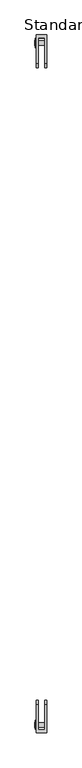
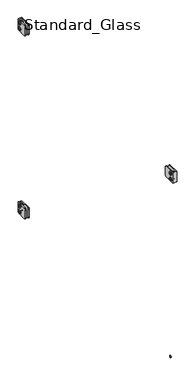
"""IFC4 building model written with IfcOpenShell, lengths in millimetres: railing geometry, Baluster-Excess-Fill-Straight-Panel-VIVA : Standard_Glass."""

from ifc_helpers import new_model, si_unit, point, frame, origin, place, context, project, spatial, polyline, circle_curve, ellipse_curve, trimmed, outline, extrude, source, transform, mapped, element, save
from ifc_brep_helpers import plane_surface, cylinder_surface, revolved_surface, advanced_brep


def standard_glass_ddde132f(model_context):
    return source(origin(), model_context, "Body", "SolidModel", [
        extrude(outline(polyline([(17.3185433, 917.178125), (15.2715791, 913.6326791), (11.1776508, 913.6326791), (9.1306867, 917.178125), (11.1776508, 920.7235709), (15.2715791, 920.7235709), (17.3185433, 917.178125)])), frame((21.7024185, 0.0, 0.0), z_axis=(1.0, 0.0, 0.0), x_axis=(0.0, 1.0, 0.0)), (0.0, 0.0, 1.0), 1.4969696),
        advanced_brep(
        [(36.7665, 16.7700609, 917.178125), (36.7665, 9.6791691, 917.178125), (24.0665, 9.6791691, 917.178125), (24.0665, 16.7700609, 917.178125), (24.0665, 5.8168259, 917.178125), (24.0665, 20.6324041, 917.178125), (23.199388, 14.8806904, 917.178125), (23.199388, 11.5685396, 917.178125), (36.7665, 11.5685396, 917.178125), (36.7665, 14.8806904, 917.178125), (23.2316551, 20.6324041, 917.178125), (23.2316551, 5.8168259, 917.178125), (21.9503831, 7.0980979, 917.178125), (21.9503831, 19.351132, 917.178125), (21.9503831, 8.9260194, 917.178125), (21.9503831, 17.5232105, 917.178125), (23.199388, 8.9260194, 917.178125), (23.199388, 17.5232105, 917.178125)],
        [
            (0, 1, circle_curve(frame((36.7665, 13.224615, 917.178125), z_axis=(-1.0, 0.0, 0.0), x_axis=(0.0, -1.0, 0.0)), 3.5454459)),
            (1, 2),
            (2, 3, circle_curve(frame((24.0665, 13.224615, 917.178125), z_axis=(1.0, 0.0, 0.0), x_axis=(0.0, -1.0, 0.0)), 3.5454459)),
            (3, 0),
            (1, 0, circle_curve(frame((36.7665, 13.224615, 917.178125), z_axis=(-1.0, 0.0, 0.0), x_axis=(0.0, -1.0, 0.0)), 3.5454459)),
            (3, 2, circle_curve(frame((24.0665, 13.224615, 917.178125), z_axis=(1.0, 0.0, 0.0), x_axis=(0.0, -1.0, 0.0)), 3.5454459)),
            (2, 4),
            (4, 5, circle_curve(frame((24.0665, 13.224615, 917.178125), z_axis=(1.0, 0.0, 0.0), x_axis=(0.0, -1.0, 0.0)), 7.4077891)),
            (5, 3),
            (5, 4, circle_curve(frame((24.0665, 13.224615, 917.178125), z_axis=(1.0, 0.0, 0.0), x_axis=(0.0, -1.0, 0.0)), 7.4077891)),
            (6, 7, circle_curve(frame((23.199388, 13.224615, 917.178125), z_axis=(-1.0, 0.0, 0.0), x_axis=(0.0, -1.0, 0.0)), 1.6560754)),
            (7, 8),
            (8, 9, circle_curve(frame((36.7665, 13.224615, 917.178125), z_axis=(1.0, 0.0, 0.0), x_axis=(0.0, -1.0, 0.0)), 1.6560754)),
            (9, 6),
            (7, 6, circle_curve(frame((23.199388, 13.224615, 917.178125), z_axis=(-1.0, 0.0, 0.0), x_axis=(0.0, -1.0, 0.0)), 1.6560754)),
            (9, 8, circle_curve(frame((36.7665, 13.224615, 917.178125), z_axis=(1.0, 0.0, 0.0), x_axis=(0.0, -1.0, 0.0)), 1.6560754)),
            (10, 11, circle_curve(frame((23.2316551, 13.224615, 917.178125), z_axis=(-1.0, 0.0, 0.0), x_axis=(0.0, -1.0, 0.0)), 7.4077891)),
            (11, 12, circle_curve(frame((23.2316551, 7.0980979, 917.178125), z_axis=(0.0, 0.0, -1.0), x_axis=(0.0, -1.0, 0.0)), 1.281272)),
            (12, 13, circle_curve(frame((21.9503831, 13.224615, 917.178125), z_axis=(1.0, 0.0, 0.0), x_axis=(0.0, -1.0, 0.0)), 6.1265171)),
            (13, 10, circle_curve(frame((23.2316551, 19.351132, 917.178125), z_axis=(0.0, 0.0, -1.0), x_axis=(0.0, 1.0, 0.0)), 1.281272)),
            (11, 10, circle_curve(frame((23.2316551, 13.224615, 917.178125), z_axis=(-1.0, 0.0, 0.0), x_axis=(0.0, -1.0, 0.0)), 7.4077891)),
            (13, 12, circle_curve(frame((21.9503831, 13.224615, 917.178125), z_axis=(1.0, 0.0, 0.0), x_axis=(0.0, -1.0, 0.0)), 6.1265171)),
            (12, 14),
            (14, 15, circle_curve(frame((21.9503831, 13.224615, 917.178125), z_axis=(1.0, 0.0, 0.0), x_axis=(0.0, -1.0, 0.0)), 4.2985955)),
            (15, 13),
            (15, 14, circle_curve(frame((21.9503831, 13.224615, 917.178125), z_axis=(1.0, 0.0, 0.0), x_axis=(0.0, -1.0, 0.0)), 4.2985955)),
            (4, 11),
            (10, 5),
            (8, 1),
            (0, 9),
            (14, 16),
            (16, 17, circle_curve(frame((23.199388, 13.224615, 917.178125), z_axis=(1.0, 0.0, 0.0), x_axis=(0.0, -1.0, 0.0)), 4.2985955)),
            (17, 15),
            (17, 16, circle_curve(frame((23.199388, 13.224615, 917.178125), z_axis=(1.0, 0.0, 0.0), x_axis=(0.0, -1.0, 0.0)), 4.2985955)),
            (16, 7),
            (6, 17),
        ],
        [
            cylinder_surface(frame((27.5632331, 13.224615, 917.178125), z_axis=(1.0, 0.0, 0.0), x_axis=(0.0, -1.0, 0.0)), 3.5454459),
            plane_surface(frame((24.0665, 13.224615, 917.178125), z_axis=(1.0, 0.0, 0.0), x_axis=(0.0, -1.0, 0.0))),
            revolved_surface(polyline([(36.7665, 11.5685396, 917.178125), (23.199388, 11.5685396, 917.178125)]), (27.5632331, 13.224615, 917.178125), (1.0, 0.0, 0.0)),
            revolved_surface(trimmed(ellipse_curve(frame((23.2316551, 7.0980979, 917.178125), z_axis=(0.0, 0.0, 1.0), x_axis=(0.0, -1.0, 0.0)), 1.281272, 1.281272), [point((21.9503831, 7.0980979, 917.178125))], [point((23.2316551, 5.8168259, 917.178125))], True, "CARTESIAN"), (27.5632331, 13.224615, 917.178125), (1.0, 0.0, 0.0)),
            plane_surface(frame((21.9503831, 13.224615, 917.178125), z_axis=(-1.0, 0.0, 0.0), x_axis=(0.0, -1.0, 0.0))),
            cylinder_surface(frame((27.5632331, 13.224615, 917.178125), z_axis=(1.0, 0.0, 0.0), x_axis=(0.0, -1.0, 0.0)), 7.4077891),
            plane_surface(frame((36.7665, 13.224615, 917.178125), z_axis=(1.0, 0.0, 0.0), x_axis=(0.0, -1.0, 0.0))),
            revolved_surface(polyline([(23.199388, 8.926019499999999, 917.178125), (21.9503831, 8.926019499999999, 917.178125)]), (27.5632331, 13.224615, 917.178125), (1.0, 0.0, 0.0)),
            plane_surface(frame((23.199388, 13.224615, 917.178125), z_axis=(-1.0, 0.0, 0.0), x_axis=(0.0, -1.0, 0.0))),
        ],
        [
            (0, [[1, 2, 3, 4]]),
            (0, [[5, -4, 6, -2]]),
            (1, [[-3, 7, 8, 9]]),
            (1, [[-6, -9, 10, -7]]),
            (2, [[11, 12, 13, 14]]),
            (2, [[15, -14, 16, -12]]),
            (3, [[17, 18, 19, 20]]),
            (3, [[21, -20, 22, -18]]),
            (4, [[-19, 23, 24, 25]]),
            (4, [[-22, -25, 26, -23]]),
            (5, [[-8, 27, -17, 28]]),
            (5, [[-10, -28, -21, -27]]),
            (6, [[-13, 29, -1, 30]]),
            (6, [[-16, -30, -5, -29]]),
            (7, [[-24, 31, 32, 33]]),
            (7, [[-26, -33, 34, -31]]),
            (8, [[-32, 35, -11, 36]]),
            (8, [[-34, -36, -15, -35]]),
        ],
    ),
        advanced_brep(
        [(36.7665, 16.7700609, 892.571875), (36.7665, 9.6791691, 892.571875), (24.0665, 9.6791691, 892.571875), (24.0665, 16.7700609, 892.571875), (24.0665, 5.8168259, 892.571875), (24.0665, 20.6324041, 892.571875), (23.199388, 14.8806904, 892.571875), (23.199388, 11.5685396, 892.571875), (36.7665, 11.5685396, 892.571875), (36.7665, 14.8806904, 892.571875), (23.2316551, 20.6324041, 892.571875), (23.2316551, 5.8168259, 892.571875), (21.9503831, 7.0980979, 892.571875), (21.9503831, 19.351132, 892.571875), (21.9503831, 8.9260194, 892.571875), (21.9503831, 17.5232105, 892.571875), (23.199388, 8.9260194, 892.571875), (23.199388, 17.5232105, 892.571875)],
        [
            (0, 1, circle_curve(frame((36.7665, 13.224615, 892.571875), z_axis=(-1.0, 0.0, 0.0), x_axis=(0.0, -1.0, 0.0)), 3.5454459)),
            (1, 2),
            (2, 3, circle_curve(frame((24.0665, 13.224615, 892.571875), z_axis=(1.0, 0.0, 0.0), x_axis=(0.0, -1.0, 0.0)), 3.5454459)),
            (3, 0),
            (1, 0, circle_curve(frame((36.7665, 13.224615, 892.571875), z_axis=(-1.0, 0.0, 0.0), x_axis=(0.0, -1.0, 0.0)), 3.5454459)),
            (3, 2, circle_curve(frame((24.0665, 13.224615, 892.571875), z_axis=(1.0, 0.0, 0.0), x_axis=(0.0, -1.0, 0.0)), 3.5454459)),
            (2, 4),
            (4, 5, circle_curve(frame((24.0665, 13.224615, 892.571875), z_axis=(1.0, 0.0, 0.0), x_axis=(0.0, -1.0, 0.0)), 7.4077891)),
            (5, 3),
            (5, 4, circle_curve(frame((24.0665, 13.224615, 892.571875), z_axis=(1.0, 0.0, 0.0), x_axis=(0.0, -1.0, 0.0)), 7.4077891)),
            (6, 7, circle_curve(frame((23.199388, 13.224615, 892.571875), z_axis=(-1.0, 0.0, 0.0), x_axis=(0.0, -1.0, 0.0)), 1.6560754)),
            (7, 8),
            (8, 9, circle_curve(frame((36.7665, 13.224615, 892.571875), z_axis=(1.0, 0.0, 0.0), x_axis=(0.0, -1.0, 0.0)), 1.6560754)),
            (9, 6),
            (7, 6, circle_curve(frame((23.199388, 13.224615, 892.571875), z_axis=(-1.0, 0.0, 0.0), x_axis=(0.0, -1.0, 0.0)), 1.6560754)),
            (9, 8, circle_curve(frame((36.7665, 13.224615, 892.571875), z_axis=(1.0, 0.0, 0.0), x_axis=(0.0, -1.0, 0.0)), 1.6560754)),
            (10, 11, circle_curve(frame((23.2316551, 13.224615, 892.571875), z_axis=(-1.0, 0.0, 0.0), x_axis=(0.0, -1.0, 0.0)), 7.4077891)),
            (11, 12, circle_curve(frame((23.2316551, 7.0980979, 892.571875), z_axis=(0.0, 0.0, -1.0), x_axis=(0.0, -1.0, 0.0)), 1.281272)),
            (12, 13, circle_curve(frame((21.9503831, 13.224615, 892.571875), z_axis=(1.0, 0.0, 0.0), x_axis=(0.0, -1.0, 0.0)), 6.1265171)),
            (13, 10, circle_curve(frame((23.2316551, 19.351132, 892.571875), z_axis=(0.0, 0.0, -1.0), x_axis=(0.0, 1.0, 0.0)), 1.281272)),
            (11, 10, circle_curve(frame((23.2316551, 13.224615, 892.571875), z_axis=(-1.0, 0.0, 0.0), x_axis=(0.0, -1.0, 0.0)), 7.4077891)),
            (13, 12, circle_curve(frame((21.9503831, 13.224615, 892.571875), z_axis=(1.0, 0.0, 0.0), x_axis=(0.0, -1.0, 0.0)), 6.1265171)),
            (12, 14),
            (14, 15, circle_curve(frame((21.9503831, 13.224615, 892.571875), z_axis=(1.0, 0.0, 0.0), x_axis=(0.0, -1.0, 0.0)), 4.2985955)),
            (15, 13),
            (15, 14, circle_curve(frame((21.9503831, 13.224615, 892.571875), z_axis=(1.0, 0.0, 0.0), x_axis=(0.0, -1.0, 0.0)), 4.2985955)),
            (8, 1),
            (0, 9),
            (4, 11),
            (10, 5),
            (14, 16),
            (16, 17, circle_curve(frame((23.199388, 13.224615, 892.571875), z_axis=(1.0, 0.0, 0.0), x_axis=(0.0, -1.0, 0.0)), 4.2985955)),
            (17, 15),
            (17, 16, circle_curve(frame((23.199388, 13.224615, 892.571875), z_axis=(1.0, 0.0, 0.0), x_axis=(0.0, -1.0, 0.0)), 4.2985955)),
            (16, 7),
            (6, 17),
        ],
        [
            cylinder_surface(frame((27.5632331, 13.224615, 892.571875), z_axis=(1.0, 0.0, 0.0), x_axis=(0.0, -1.0, 0.0)), 3.5454459),
            plane_surface(frame((24.0665, 13.224615, 892.571875), z_axis=(1.0, 0.0, 0.0), x_axis=(0.0, -1.0, 0.0))),
            revolved_surface(polyline([(36.7665, 11.5685396, 892.571875), (23.199388, 11.5685396, 892.571875)]), (27.5632331, 13.224615, 892.571875), (1.0, 0.0, 0.0)),
            revolved_surface(trimmed(ellipse_curve(frame((23.2316551, 7.0980979, 892.571875), z_axis=(0.0, 0.0, 1.0), x_axis=(0.0, -1.0, 0.0)), 1.281272, 1.281272), [point((21.9503831, 7.0980979, 892.571875))], [point((23.2316551, 5.8168259, 892.571875))], True, "CARTESIAN"), (27.5632331, 13.224615, 892.571875), (1.0, 0.0, 0.0)),
            plane_surface(frame((21.9503831, 13.224615, 892.571875), z_axis=(-1.0, 0.0, 0.0), x_axis=(0.0, -1.0, 0.0))),
            plane_surface(frame((36.7665, 13.224615, 892.571875), z_axis=(1.0, 0.0, 0.0), x_axis=(0.0, -1.0, 0.0))),
            cylinder_surface(frame((27.5632331, 13.224615, 892.571875), z_axis=(1.0, 0.0, 0.0), x_axis=(0.0, -1.0, 0.0)), 7.4077891),
            revolved_surface(polyline([(23.199388, 8.926019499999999, 892.571875), (21.9503831, 8.926019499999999, 892.571875)]), (27.5632331, 13.224615, 892.571875), (1.0, 0.0, 0.0)),
            plane_surface(frame((23.199388, 13.224615, 892.571875), z_axis=(-1.0, 0.0, 0.0), x_axis=(0.0, -1.0, 0.0))),
        ],
        [
            (0, [[1, 2, 3, 4]]),
            (0, [[5, -4, 6, -2]]),
            (1, [[-3, 7, 8, 9]]),
            (1, [[-6, -9, 10, -7]]),
            (2, [[11, 12, 13, 14]]),
            (2, [[15, -14, 16, -12]]),
            (3, [[17, 18, 19, 20]]),
            (3, [[21, -20, 22, -18]]),
            (4, [[-19, 23, 24, 25]]),
            (4, [[-22, -25, 26, -23]]),
            (5, [[-13, 27, -1, 28]]),
            (5, [[-16, -28, -5, -27]]),
            (6, [[-8, 29, -17, 30]]),
            (6, [[-10, -30, -21, -29]]),
            (7, [[-24, 31, 32, 33]]),
            (7, [[-26, -33, 34, -31]]),
            (8, [[-32, 35, -11, 36]]),
            (8, [[-34, -36, -15, -35]]),
        ],
    ),
        extrude(outline(polyline([(17.3185433, 892.571875), (15.2715791, 889.0264291), (11.1776508, 889.0264291), (9.1306867, 892.571875), (11.1776508, 896.1173209), (15.2715791, 896.1173209), (17.3185433, 892.571875)])), frame((21.7024185, 0.0, 0.0), z_axis=(1.0, 0.0, 0.0), x_axis=(0.0, 1.0, 0.0)), (0.0, 0.0, 1.0), 1.4969696),
        advanced_brep(
        [(24.0665, 25.8579597, 927.1), (24.0665, 25.8579597, 882.65), (24.0665, -18.5920403, 882.65), (24.0665, -24.9420403, 889.0), (24.0665, -24.9420403, 920.75), (24.0665, -18.5920403, 927.1), (39.9415, 25.8579597, 927.1), (39.9415, -18.5920403, 927.1), (39.9415, -24.9420403, 920.75), (39.9415, -24.9420403, 889.0), (39.9415, -18.5920403, 882.65), (39.9415, 25.8579597, 882.65), (36.7665, -18.5920403, 882.65), (36.7665, 21.1398793, 882.65), (27.2415, 21.1398793, 882.65), (27.2415, -18.5920403, 882.65), (36.7665, 21.1398793, 927.1), (27.2415, 21.1398793, 927.1), (27.2415, -18.5920403, 927.1), (27.2415, -24.9420403, 920.75), (27.2415, -24.9420403, 889.0), (36.7665, -24.9420403, 889.0), (36.7665, -24.9420403, 920.75), (36.7665, -18.5920403, 927.1)],
        [
            (0, 1),
            (1, 2),
            (2, 3, circle_curve(frame((24.0665, -18.5920403, 889.0), z_axis=(-1.0, 0.0, 0.0), x_axis=(0.0, -1.0, 0.0)), 6.35)),
            (3, 4),
            (4, 5, circle_curve(frame((24.0665, -18.5920403, 920.75), z_axis=(-1.0, 0.0, 0.0), x_axis=(0.0, -1.0, 0.0)), 6.35)),
            (5, 0),
            (6, 7),
            (7, 8, circle_curve(frame((39.9415, -18.5920403, 920.75), z_axis=(1.0, 0.0, 0.0), x_axis=(0.0, -1.0, 0.0)), 6.35)),
            (8, 9),
            (9, 10, circle_curve(frame((39.9415, -18.5920403, 889.0), z_axis=(1.0, 0.0, 0.0), x_axis=(0.0, -1.0, 0.0)), 6.35)),
            (10, 11),
            (11, 6),
            (0, 6),
            (11, 1),
            (10, 12),
            (12, 13),
            (13, 14),
            (14, 15),
            (15, 2),
            (13, 16),
            (16, 17),
            (17, 14),
            (17, 18),
            (18, 19, circle_curve(frame((27.2415, -18.5920403, 920.75), z_axis=(1.0, 0.0, 0.0), x_axis=(0.0, -1.0, 0.0)), 6.35)),
            (19, 20),
            (20, 15, circle_curve(frame((27.2415, -18.5920403, 889.0), z_axis=(1.0, 0.0, 0.0), x_axis=(0.0, -1.0, 0.0)), 6.35)),
            (12, 21, circle_curve(frame((36.7665, -18.5920403, 889.0), z_axis=(-1.0, 0.0, 0.0), x_axis=(0.0, -1.0, 0.0)), 6.35)),
            (21, 22),
            (22, 23, circle_curve(frame((36.7665, -18.5920403, 920.75), z_axis=(-1.0, 0.0, 0.0), x_axis=(0.0, -1.0, 0.0)), 6.35)),
            (23, 16),
            (20, 3),
            (9, 21),
            (19, 4),
            (8, 22),
            (18, 5),
            (7, 23),
        ],
        [
            plane_surface(frame((24.0665, 25.8579597, 882.65), z_axis=(-1.0, 0.0, 0.0), x_axis=(0.0, 0.0, -1.0))),
            plane_surface(frame((39.9415, 25.8579597, 882.65), z_axis=(1.0, 0.0, 0.0), x_axis=(0.0, 0.0, 1.0))),
            plane_surface(frame((24.0665, 25.8579597, 927.1), z_axis=(0.0, 1.0, 0.0), x_axis=(1.0, 0.0, 0.0))),
            plane_surface(frame((24.0665, 25.8579597, 882.65), z_axis=(0.0, 0.0, -1.0), x_axis=(1.0, 0.0, 0.0))),
            plane_surface(frame((36.7665, 21.1398793, 939.8), z_axis=(0.0, -1.0, 0.0), x_axis=(0.0, 0.0, -1.0))),
            plane_surface(frame((27.2415, 21.1398793, 939.8), z_axis=(1.0, 0.0, 0.0), x_axis=(0.0, 0.0, -1.0))),
            plane_surface(frame((36.7665, -37.6420403, 939.8), z_axis=(-1.0, 0.0, 0.0), x_axis=(0.0, 0.0, -1.0))),
            cylinder_surface(frame((39.9415, -18.5920403, 889.0), z_axis=(-1.0, 0.0, 0.0), x_axis=(0.0, -1.0, 0.0)), 6.35),
            plane_surface(frame((24.0665, -24.9420403, 889.0), z_axis=(0.0, -1.0, 0.0), x_axis=(1.0, 0.0, 0.0))),
            cylinder_surface(frame((39.9415, -18.5920403, 920.75), z_axis=(-1.0, 0.0, 0.0), x_axis=(0.0, -1.0, 0.0)), 6.35),
            plane_surface(frame((24.0665, -18.5920403, 927.1), z_axis=(0.0, 0.0, 1.0), x_axis=(1.0, 0.0, 0.0))),
        ],
        [
            (0, [[1, 2, 3, 4, 5, 6]]),
            (1, [[7, 8, 9, 10, 11, 12]]),
            (2, [[-1, 13, -12, 14]]),
            (3, [[-2, -14, -11, 15, 16, 17, 18, 19]]),
            (4, [[20, 21, 22, -17]]),
            (5, [[-22, 23, 24, 25, 26, -18]]),
            (6, [[-20, -16, 27, 28, 29, 30]]),
            (7, [[-3, -19, -26, 31]]),
            (7, [[-10, 32, -27, -15]]),
            (8, [[-4, -31, -25, 33]]),
            (8, [[-9, 34, -28, -32]]),
            (9, [[-5, -33, -24, 35]]),
            (9, [[-8, 36, -29, -34]]),
            (10, [[-6, -35, -23, -21, -30, -36, -7, -13]]),
        ],
    ),
        extrude(outline(polyline([(17.3185433, 138.7358896), (15.2715791, 135.1904437), (11.1776508, 135.1904437), (9.1306867, 138.7358896), (11.1776508, 142.2813355), (15.2715791, 142.2813355), (17.3185433, 138.7358896)])), frame((21.7024185, 0.0, 0.0), z_axis=(1.0, 0.0, 0.0), x_axis=(0.0, 1.0, 0.0)), (0.0, 0.0, 1.0), 1.4969696),
        advanced_brep(
        [(36.7665, 16.7700609, 138.7358896), (36.7665, 9.6791691, 138.7358896), (24.0665, 9.6791691, 138.7358896), (24.0665, 16.7700609, 138.7358896), (24.0665, 5.8168259, 138.7358896), (24.0665, 20.6324041, 138.7358896), (23.199388, 14.8806904, 138.7358896), (23.199388, 11.5685396, 138.7358896), (36.7665, 11.5685396, 138.7358896), (36.7665, 14.8806904, 138.7358896), (23.2316551, 20.6324041, 138.7358896), (23.2316551, 5.8168259, 138.7358896), (21.9503831, 7.0980979, 138.7358896), (21.9503831, 19.351132, 138.7358896), (21.9503831, 8.9260194, 138.7358896), (21.9503831, 17.5232105, 138.7358896), (23.199388, 8.9260194, 138.7358896), (23.199388, 17.5232105, 138.7358896)],
        [
            (0, 1, circle_curve(frame((36.7665, 13.224615, 138.7358896), z_axis=(-1.0, 0.0, 0.0), x_axis=(0.0, -1.0, 0.0)), 3.5454459)),
            (1, 2),
            (2, 3, circle_curve(frame((24.0665, 13.224615, 138.7358896), z_axis=(1.0, 0.0, 0.0), x_axis=(0.0, -1.0, 0.0)), 3.5454459)),
            (3, 0),
            (1, 0, circle_curve(frame((36.7665, 13.224615, 138.7358896), z_axis=(-1.0, 0.0, 0.0), x_axis=(0.0, -1.0, 0.0)), 3.5454459)),
            (3, 2, circle_curve(frame((24.0665, 13.224615, 138.7358896), z_axis=(1.0, 0.0, 0.0), x_axis=(0.0, -1.0, 0.0)), 3.5454459)),
            (2, 4),
            (4, 5, circle_curve(frame((24.0665, 13.224615, 138.7358896), z_axis=(1.0, 0.0, 0.0), x_axis=(0.0, -1.0, 0.0)), 7.4077891)),
            (5, 3),
            (5, 4, circle_curve(frame((24.0665, 13.224615, 138.7358896), z_axis=(1.0, 0.0, 0.0), x_axis=(0.0, -1.0, 0.0)), 7.4077891)),
            (6, 7, circle_curve(frame((23.199388, 13.224615, 138.7358896), z_axis=(-1.0, 0.0, 0.0), x_axis=(0.0, -1.0, 0.0)), 1.6560754)),
            (7, 8),
            (8, 9, circle_curve(frame((36.7665, 13.224615, 138.7358896), z_axis=(1.0, 0.0, 0.0), x_axis=(0.0, -1.0, 0.0)), 1.6560754)),
            (9, 6),
            (7, 6, circle_curve(frame((23.199388, 13.224615, 138.7358896), z_axis=(-1.0, 0.0, 0.0), x_axis=(0.0, -1.0, 0.0)), 1.6560754)),
            (9, 8, circle_curve(frame((36.7665, 13.224615, 138.7358896), z_axis=(1.0, 0.0, 0.0), x_axis=(0.0, -1.0, 0.0)), 1.6560754)),
            (10, 11, circle_curve(frame((23.2316551, 13.224615, 138.7358896), z_axis=(-1.0, 0.0, 0.0), x_axis=(0.0, -1.0, 0.0)), 7.4077891)),
            (11, 12, circle_curve(frame((23.2316551, 7.0980979, 138.7358896), z_axis=(0.0, 0.0, -1.0), x_axis=(0.0, -1.0, 0.0)), 1.281272)),
            (12, 13, circle_curve(frame((21.9503831, 13.224615, 138.7358896), z_axis=(1.0, 0.0, 0.0), x_axis=(0.0, -1.0, 0.0)), 6.1265171)),
            (13, 10, circle_curve(frame((23.2316551, 19.351132, 138.7358896), z_axis=(0.0, 0.0, -1.0), x_axis=(0.0, 1.0, 0.0)), 1.281272)),
            (11, 10, circle_curve(frame((23.2316551, 13.224615, 138.7358896), z_axis=(-1.0, 0.0, 0.0), x_axis=(0.0, -1.0, 0.0)), 7.4077891)),
            (13, 12, circle_curve(frame((21.9503831, 13.224615, 138.7358896), z_axis=(1.0, 0.0, 0.0), x_axis=(0.0, -1.0, 0.0)), 6.1265171)),
            (12, 14),
            (14, 15, circle_curve(frame((21.9503831, 13.224615, 138.7358896), z_axis=(1.0, 0.0, 0.0), x_axis=(0.0, -1.0, 0.0)), 4.2985955)),
            (15, 13),
            (15, 14, circle_curve(frame((21.9503831, 13.224615, 138.7358896), z_axis=(1.0, 0.0, 0.0), x_axis=(0.0, -1.0, 0.0)), 4.2985955)),
            (4, 11),
            (10, 5),
            (8, 1),
            (0, 9),
            (14, 16),
            (16, 17, circle_curve(frame((23.199388, 13.224615, 138.7358896), z_axis=(1.0, 0.0, 0.0), x_axis=(0.0, -1.0, 0.0)), 4.2985955)),
            (17, 15),
            (17, 16, circle_curve(frame((23.199388, 13.224615, 138.7358896), z_axis=(1.0, 0.0, 0.0), x_axis=(0.0, -1.0, 0.0)), 4.2985955)),
            (16, 7),
            (6, 17),
        ],
        [
            cylinder_surface(frame((27.5632331, 13.224615, 138.7358896), z_axis=(1.0, 0.0, 0.0), x_axis=(0.0, -1.0, 0.0)), 3.5454459),
            plane_surface(frame((24.0665, 13.224615, 138.7358896), z_axis=(1.0, 0.0, 0.0), x_axis=(0.0, -1.0, 0.0))),
            revolved_surface(polyline([(36.7665, 11.5685396, 138.7358896), (23.199388, 11.5685396, 138.7358896)]), (27.5632331, 13.224615, 138.7358896), (1.0, 0.0, 0.0)),
            revolved_surface(trimmed(ellipse_curve(frame((23.2316551, 7.0980979, 138.7358896), z_axis=(0.0, 0.0, 1.0), x_axis=(0.0, -1.0, 0.0)), 1.281272, 1.281272), [point((21.9503831, 7.0980979, 138.7358896))], [point((23.2316551, 5.8168259, 138.7358896))], True, "CARTESIAN"), (27.5632331, 13.224615, 138.7358896), (1.0, 0.0, 0.0)),
            plane_surface(frame((21.9503831, 13.224615, 138.7358896), z_axis=(-1.0, 0.0, 0.0), x_axis=(0.0, -1.0, 0.0))),
            cylinder_surface(frame((27.5632331, 13.224615, 138.7358896), z_axis=(1.0, 0.0, 0.0), x_axis=(0.0, -1.0, 0.0)), 7.4077891),
            plane_surface(frame((36.7665, 13.224615, 138.7358896), z_axis=(1.0, 0.0, 0.0), x_axis=(0.0, -1.0, 0.0))),
            revolved_surface(polyline([(23.199388, 8.926019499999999, 138.7358896), (21.9503831, 8.926019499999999, 138.7358896)]), (27.5632331, 13.224615, 138.7358896), (1.0, 0.0, 0.0)),
            plane_surface(frame((23.199388, 13.224615, 138.7358896), z_axis=(-1.0, 0.0, 0.0), x_axis=(0.0, -1.0, 0.0))),
        ],
        [
            (0, [[1, 2, 3, 4]]),
            (0, [[5, -4, 6, -2]]),
            (1, [[-3, 7, 8, 9]]),
            (1, [[-6, -9, 10, -7]]),
            (2, [[11, 12, 13, 14]]),
            (2, [[15, -14, 16, -12]]),
            (3, [[17, 18, 19, 20]]),
            (3, [[21, -20, 22, -18]]),
            (4, [[-19, 23, 24, 25]]),
            (4, [[-22, -25, 26, -23]]),
            (5, [[-8, 27, -17, 28]]),
            (5, [[-10, -28, -21, -27]]),
            (6, [[-13, 29, -1, 30]]),
            (6, [[-16, -30, -5, -29]]),
            (7, [[-24, 31, 32, 33]]),
            (7, [[-26, -33, 34, -31]]),
            (8, [[-32, 35, -11, 36]]),
            (8, [[-34, -36, -15, -35]]),
        ],
    ),
        advanced_brep(
        [(36.7665, 16.7700609, 114.1296396), (36.7665, 9.6791691, 114.1296396), (24.0665, 9.6791691, 114.1296396), (24.0665, 16.7700609, 114.1296396), (24.0665, 5.8168259, 114.1296396), (24.0665, 20.6324041, 114.1296396), (23.199388, 14.8806904, 114.1296396), (23.199388, 11.5685396, 114.1296396), (36.7665, 11.5685396, 114.1296396), (36.7665, 14.8806904, 114.1296396), (23.2316551, 20.6324041, 114.1296396), (23.2316551, 5.8168259, 114.1296396), (21.9503831, 7.0980979, 114.1296396), (21.9503831, 19.351132, 114.1296396), (21.9503831, 8.9260194, 114.1296396), (21.9503831, 17.5232105, 114.1296396), (23.199388, 8.9260194, 114.1296396), (23.199388, 17.5232105, 114.1296396)],
        [
            (0, 1, circle_curve(frame((36.7665, 13.224615, 114.1296396), z_axis=(-1.0, 0.0, 0.0), x_axis=(0.0, -1.0, 0.0)), 3.5454459)),
            (1, 2),
            (2, 3, circle_curve(frame((24.0665, 13.224615, 114.1296396), z_axis=(1.0, 0.0, 0.0), x_axis=(0.0, -1.0, 0.0)), 3.5454459)),
            (3, 0),
            (1, 0, circle_curve(frame((36.7665, 13.224615, 114.1296396), z_axis=(-1.0, 0.0, 0.0), x_axis=(0.0, -1.0, 0.0)), 3.5454459)),
            (3, 2, circle_curve(frame((24.0665, 13.224615, 114.1296396), z_axis=(1.0, 0.0, 0.0), x_axis=(0.0, -1.0, 0.0)), 3.5454459)),
            (2, 4),
            (4, 5, circle_curve(frame((24.0665, 13.224615, 114.1296396), z_axis=(1.0, 0.0, 0.0), x_axis=(0.0, -1.0, 0.0)), 7.4077891)),
            (5, 3),
            (5, 4, circle_curve(frame((24.0665, 13.224615, 114.1296396), z_axis=(1.0, 0.0, 0.0), x_axis=(0.0, -1.0, 0.0)), 7.4077891)),
            (6, 7, circle_curve(frame((23.199388, 13.224615, 114.1296396), z_axis=(-1.0, 0.0, 0.0), x_axis=(0.0, -1.0, 0.0)), 1.6560754)),
            (7, 8),
            (8, 9, circle_curve(frame((36.7665, 13.224615, 114.1296396), z_axis=(1.0, 0.0, 0.0), x_axis=(0.0, -1.0, 0.0)), 1.6560754)),
            (9, 6),
            (7, 6, circle_curve(frame((23.199388, 13.224615, 114.1296396), z_axis=(-1.0, 0.0, 0.0), x_axis=(0.0, -1.0, 0.0)), 1.6560754)),
            (9, 8, circle_curve(frame((36.7665, 13.224615, 114.1296396), z_axis=(1.0, 0.0, 0.0), x_axis=(0.0, -1.0, 0.0)), 1.6560754)),
            (10, 11, circle_curve(frame((23.2316551, 13.224615, 114.1296396), z_axis=(-1.0, 0.0, 0.0), x_axis=(0.0, -1.0, 0.0)), 7.4077891)),
            (11, 12, circle_curve(frame((23.2316551, 7.0980979, 114.1296396), z_axis=(0.0, 0.0, -1.0), x_axis=(0.0, -1.0, 0.0)), 1.281272)),
            (12, 13, circle_curve(frame((21.9503831, 13.224615, 114.1296396), z_axis=(1.0, 0.0, 0.0), x_axis=(0.0, -1.0, 0.0)), 6.1265171)),
            (13, 10, circle_curve(frame((23.2316551, 19.351132, 114.1296396), z_axis=(0.0, 0.0, -1.0), x_axis=(0.0, 1.0, 0.0)), 1.281272)),
            (11, 10, circle_curve(frame((23.2316551, 13.224615, 114.1296396), z_axis=(-1.0, 0.0, 0.0), x_axis=(0.0, -1.0, 0.0)), 7.4077891)),
            (13, 12, circle_curve(frame((21.9503831, 13.224615, 114.1296396), z_axis=(1.0, 0.0, 0.0), x_axis=(0.0, -1.0, 0.0)), 6.1265171)),
            (12, 14),
            (14, 15, circle_curve(frame((21.9503831, 13.224615, 114.1296396), z_axis=(1.0, 0.0, 0.0), x_axis=(0.0, -1.0, 0.0)), 4.2985955)),
            (15, 13),
            (15, 14, circle_curve(frame((21.9503831, 13.224615, 114.1296396), z_axis=(1.0, 0.0, 0.0), x_axis=(0.0, -1.0, 0.0)), 4.2985955)),
            (8, 1),
            (0, 9),
            (4, 11),
            (10, 5),
            (14, 16),
            (16, 17, circle_curve(frame((23.199388, 13.224615, 114.1296396), z_axis=(1.0, 0.0, 0.0), x_axis=(0.0, -1.0, 0.0)), 4.2985955)),
            (17, 15),
            (17, 16, circle_curve(frame((23.199388, 13.224615, 114.1296396), z_axis=(1.0, 0.0, 0.0), x_axis=(0.0, -1.0, 0.0)), 4.2985955)),
            (16, 7),
            (6, 17),
        ],
        [
            cylinder_surface(frame((27.5632331, 13.224615, 114.1296396), z_axis=(1.0, 0.0, 0.0), x_axis=(0.0, -1.0, 0.0)), 3.5454459),
            plane_surface(frame((24.0665, 13.224615, 114.1296396), z_axis=(1.0, 0.0, 0.0), x_axis=(0.0, -1.0, 0.0))),
            revolved_surface(polyline([(36.7665, 11.5685396, 114.1296396), (23.199388, 11.5685396, 114.1296396)]), (27.5632331, 13.224615, 114.1296396), (1.0, 0.0, 0.0)),
            revolved_surface(trimmed(ellipse_curve(frame((23.2316551, 7.0980979, 114.1296396), z_axis=(0.0, 0.0, 1.0), x_axis=(0.0, -1.0, 0.0)), 1.281272, 1.281272), [point((21.9503831, 7.0980979, 114.1296396))], [point((23.2316551, 5.8168259, 114.1296396))], True, "CARTESIAN"), (27.5632331, 13.224615, 114.1296396), (1.0, 0.0, 0.0)),
            plane_surface(frame((21.9503831, 13.224615, 114.1296396), z_axis=(-1.0, 0.0, 0.0), x_axis=(0.0, -1.0, 0.0))),
            plane_surface(frame((36.7665, 13.224615, 114.1296396), z_axis=(1.0, 0.0, 0.0), x_axis=(0.0, -1.0, 0.0))),
            cylinder_surface(frame((27.5632331, 13.224615, 114.1296396), z_axis=(1.0, 0.0, 0.0), x_axis=(0.0, -1.0, 0.0)), 7.4077891),
            revolved_surface(polyline([(23.199388, 8.926019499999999, 114.1296396), (21.9503831, 8.926019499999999, 114.1296396)]), (27.5632331, 13.224615, 114.1296396), (1.0, 0.0, 0.0)),
            plane_surface(frame((23.199388, 13.224615, 114.1296396), z_axis=(-1.0, 0.0, 0.0), x_axis=(0.0, -1.0, 0.0))),
        ],
        [
            (0, [[1, 2, 3, 4]]),
            (0, [[5, -4, 6, -2]]),
            (1, [[-3, 7, 8, 9]]),
            (1, [[-6, -9, 10, -7]]),
            (2, [[11, 12, 13, 14]]),
            (2, [[15, -14, 16, -12]]),
            (3, [[17, 18, 19, 20]]),
            (3, [[21, -20, 22, -18]]),
            (4, [[-19, 23, 24, 25]]),
            (4, [[-22, -25, 26, -23]]),
            (5, [[-13, 27, -1, 28]]),
            (5, [[-16, -28, -5, -27]]),
            (6, [[-8, 29, -17, 30]]),
            (6, [[-10, -30, -21, -29]]),
            (7, [[-24, 31, 32, 33]]),
            (7, [[-26, -33, 34, -31]]),
            (8, [[-32, 35, -11, 36]]),
            (8, [[-34, -36, -15, -35]]),
        ],
    ),
        extrude(outline(polyline([(17.3185433, 114.1296396), (15.2715791, 110.5841937), (11.1776508, 110.5841937), (9.1306867, 114.1296396), (11.1776508, 117.6750855), (15.2715791, 117.6750855), (17.3185433, 114.1296396)])), frame((21.7024185, 0.0, 0.0), z_axis=(1.0, 0.0, 0.0), x_axis=(0.0, 1.0, 0.0)), (0.0, 0.0, 1.0), 1.4969696),
        advanced_brep(
        [(24.0665, 25.8579597, 148.6577646), (24.0665, 25.8579597, 104.2077646), (24.0665, -18.5920403, 104.2077646), (24.0665, -24.9420403, 110.5577646), (24.0665, -24.9420403, 142.3077646), (24.0665, -18.5920403, 148.6577646), (39.9415, 25.8579597, 148.6577646), (39.9415, -18.5920403, 148.6577646), (39.9415, -24.9420403, 142.3077646), (39.9415, -24.9420403, 110.5577646), (39.9415, -18.5920403, 104.2077646), (39.9415, 25.8579597, 104.2077646), (36.7665, -18.5920403, 104.2077646), (36.7665, 21.1398793, 104.2077646), (27.2415, 21.1398793, 104.2077646), (27.2415, -18.5920403, 104.2077646), (36.7665, 21.1398793, 148.6577646), (27.2415, 21.1398793, 148.6577646), (27.2415, -18.5920403, 148.6577646), (27.2415, -24.9420403, 142.3077646), (27.2415, -24.9420403, 110.5577646), (36.7665, -24.9420403, 110.5577646), (36.7665, -24.9420403, 142.3077646), (36.7665, -18.5920403, 148.6577646)],
        [
            (0, 1),
            (1, 2),
            (2, 3, circle_curve(frame((24.0665, -18.5920403, 110.5577646), z_axis=(-1.0, 0.0, 0.0), x_axis=(0.0, -1.0, 0.0)), 6.35)),
            (3, 4),
            (4, 5, circle_curve(frame((24.0665, -18.5920403, 142.3077646), z_axis=(-1.0, 0.0, 0.0), x_axis=(0.0, -1.0, 0.0)), 6.35)),
            (5, 0),
            (6, 7),
            (7, 8, circle_curve(frame((39.9415, -18.5920403, 142.3077646), z_axis=(1.0, 0.0, 0.0), x_axis=(0.0, -1.0, 0.0)), 6.35)),
            (8, 9),
            (9, 10, circle_curve(frame((39.9415, -18.5920403, 110.5577646), z_axis=(1.0, 0.0, 0.0), x_axis=(0.0, -1.0, 0.0)), 6.35)),
            (10, 11),
            (11, 6),
            (0, 6),
            (11, 1),
            (10, 12),
            (12, 13),
            (13, 14),
            (14, 15),
            (15, 2),
            (13, 16),
            (16, 17),
            (17, 14),
            (17, 18),
            (18, 19, circle_curve(frame((27.2415, -18.5920403, 142.3077646), z_axis=(1.0, 0.0, 0.0), x_axis=(0.0, -1.0, 0.0)), 6.35)),
            (19, 20),
            (20, 15, circle_curve(frame((27.2415, -18.5920403, 110.5577646), z_axis=(1.0, 0.0, 0.0), x_axis=(0.0, -1.0, 0.0)), 6.35)),
            (12, 21, circle_curve(frame((36.7665, -18.5920403, 110.5577646), z_axis=(-1.0, 0.0, 0.0), x_axis=(0.0, -1.0, 0.0)), 6.35)),
            (21, 22),
            (22, 23, circle_curve(frame((36.7665, -18.5920403, 142.3077646), z_axis=(-1.0, 0.0, 0.0), x_axis=(0.0, -1.0, 0.0)), 6.35)),
            (23, 16),
            (20, 3),
            (9, 21),
            (19, 4),
            (8, 22),
            (18, 5),
            (7, 23),
        ],
        [
            plane_surface(frame((24.0665, 25.8579597, 104.2077646), z_axis=(-1.0, 0.0, 0.0), x_axis=(0.0, 0.0, -1.0))),
            plane_surface(frame((39.9415, 25.8579597, 104.2077646), z_axis=(1.0, 0.0, 0.0), x_axis=(0.0, 0.0, 1.0))),
            plane_surface(frame((24.0665, 25.8579597, 148.6577646), z_axis=(0.0, 1.0, 0.0), x_axis=(1.0, 0.0, 0.0))),
            plane_surface(frame((24.0665, 25.8579597, 104.2077646), z_axis=(0.0, 0.0, -1.0), x_axis=(1.0, 0.0, 0.0))),
            plane_surface(frame((36.7665, 21.1398793, 161.3577646), z_axis=(0.0, -1.0, 0.0), x_axis=(0.0, 0.0, -1.0))),
            plane_surface(frame((27.2415, 21.1398793, 161.3577646), z_axis=(1.0, 0.0, 0.0), x_axis=(0.0, 0.0, -1.0))),
            plane_surface(frame((36.7665, -37.6420403, 161.3577646), z_axis=(-1.0, 0.0, 0.0), x_axis=(0.0, 0.0, -1.0))),
            cylinder_surface(frame((39.9415, -18.5920403, 110.5577646), z_axis=(-1.0, 0.0, 0.0), x_axis=(0.0, -1.0, 0.0)), 6.35),
            plane_surface(frame((24.0665, -24.9420403, 110.5577646), z_axis=(0.0, -1.0, 0.0), x_axis=(1.0, 0.0, 0.0))),
            cylinder_surface(frame((39.9415, -18.5920403, 142.3077646), z_axis=(-1.0, 0.0, 0.0), x_axis=(0.0, -1.0, 0.0)), 6.35),
            plane_surface(frame((24.0665, -18.5920403, 148.6577646), z_axis=(0.0, 0.0, 1.0), x_axis=(1.0, 0.0, 0.0))),
        ],
        [
            (0, [[1, 2, 3, 4, 5, 6]]),
            (1, [[7, 8, 9, 10, 11, 12]]),
            (2, [[-1, 13, -12, 14]]),
            (3, [[-2, -14, -11, 15, 16, 17, 18, 19]]),
            (4, [[20, 21, 22, -17]]),
            (5, [[-22, 23, 24, 25, 26, -18]]),
            (6, [[-20, -16, 27, 28, 29, 30]]),
            (7, [[-3, -19, -26, 31]]),
            (7, [[-10, 32, -27, -15]]),
            (8, [[-4, -31, -25, 33]]),
            (8, [[-9, 34, -28, -32]]),
            (9, [[-5, -33, -24, 35]]),
            (9, [[-8, 36, -29, -34]]),
            (10, [[-6, -35, -23, -21, -30, -36, -7, -13]]),
        ],
    ),
        extrude(outline(polyline([(-1045.2927102, 917.178125), (-1043.2457461, 920.7235709), (-1039.1518178, 920.7235709), (-1037.1048536, 917.178125), (-1039.1518178, 913.6326791), (-1043.2457461, 913.6326791), (-1045.2927102, 917.178125)])), frame((21.7024185, 0.0, 0.0), z_axis=(1.0, 0.0, 0.0), x_axis=(0.0, 1.0, 0.0)), (0.0, 0.0, 1.0), 1.4969696),
        advanced_brep(
        [(36.7665, -1044.7442278, 917.178125), (24.0665, -1044.7442278, 917.178125), (24.0665, -1037.653336, 917.178125), (36.7665, -1037.653336, 917.178125), (24.0665, -1048.606571, 917.178125), (24.0665, -1033.7909928, 917.178125), (23.199388, -1042.8548573, 917.178125), (36.7665, -1042.8548573, 917.178125), (36.7665, -1039.5427065, 917.178125), (23.199388, -1039.5427065, 917.178125), (23.2316551, -1048.606571, 917.178125), (21.9503831, -1047.325299, 917.178125), (21.9503831, -1035.0722649, 917.178125), (23.2316551, -1033.7909928, 917.178125), (21.9503831, -1045.4973775, 917.178125), (21.9503831, -1036.9001864, 917.178125), (23.199388, -1045.4973775, 917.178125), (23.199388, -1036.9001864, 917.178125)],
        [
            (0, 1),
            (1, 2, circle_curve(frame((24.0665, -1041.1987819, 917.178125), z_axis=(1.0, 0.0, 0.0), x_axis=(0.0, 1.0, 0.0)), 3.5454459)),
            (2, 3),
            (3, 0, circle_curve(frame((36.7665, -1041.1987819, 917.178125), z_axis=(-1.0, 0.0, 0.0), x_axis=(0.0, 1.0, 0.0)), 3.5454459)),
            (2, 1, circle_curve(frame((24.0665, -1041.1987819, 917.178125), z_axis=(1.0, 0.0, 0.0), x_axis=(0.0, 1.0, 0.0)), 3.5454459)),
            (0, 3, circle_curve(frame((36.7665, -1041.1987819, 917.178125), z_axis=(-1.0, 0.0, 0.0), x_axis=(0.0, 1.0, 0.0)), 3.5454459)),
            (1, 4),
            (4, 5, circle_curve(frame((24.0665, -1041.1987819, 917.178125), z_axis=(1.0, 0.0, 0.0), x_axis=(0.0, 1.0, 0.0)), 7.4077891)),
            (5, 2),
            (5, 4, circle_curve(frame((24.0665, -1041.1987819, 917.178125), z_axis=(1.0, 0.0, 0.0), x_axis=(0.0, 1.0, 0.0)), 7.4077891)),
            (6, 7),
            (7, 8, circle_curve(frame((36.7665, -1041.1987819, 917.178125), z_axis=(1.0, 0.0, 0.0), x_axis=(0.0, 1.0, 0.0)), 1.6560754)),
            (8, 9),
            (9, 6, circle_curve(frame((23.199388, -1041.1987819, 917.178125), z_axis=(-1.0, 0.0, 0.0), x_axis=(0.0, 1.0, 0.0)), 1.6560754)),
            (8, 7, circle_curve(frame((36.7665, -1041.1987819, 917.178125), z_axis=(1.0, 0.0, 0.0), x_axis=(0.0, 1.0, 0.0)), 1.6560754)),
            (6, 9, circle_curve(frame((23.199388, -1041.1987819, 917.178125), z_axis=(-1.0, 0.0, 0.0), x_axis=(0.0, 1.0, 0.0)), 1.6560754)),
            (10, 11, circle_curve(frame((23.2316551, -1047.325299, 917.178125), z_axis=(0.0, 0.0, -1.0), x_axis=(0.0, -1.0, 0.0)), 1.281272)),
            (11, 12, circle_curve(frame((21.9503831, -1041.1987819, 917.178125), z_axis=(1.0, 0.0, 0.0), x_axis=(0.0, 1.0, 0.0)), 6.1265171)),
            (12, 13, circle_curve(frame((23.2316551, -1035.0722649, 917.178125), z_axis=(0.0, 0.0, -1.0), x_axis=(0.0, 1.0, 0.0)), 1.281272)),
            (13, 10, circle_curve(frame((23.2316551, -1041.1987819, 917.178125), z_axis=(-1.0, 0.0, 0.0), x_axis=(0.0, 1.0, 0.0)), 7.4077891)),
            (12, 11, circle_curve(frame((21.9503831, -1041.1987819, 917.178125), z_axis=(1.0, 0.0, 0.0), x_axis=(0.0, 1.0, 0.0)), 6.1265171)),
            (10, 13, circle_curve(frame((23.2316551, -1041.1987819, 917.178125), z_axis=(-1.0, 0.0, 0.0), x_axis=(0.0, 1.0, 0.0)), 7.4077891)),
            (11, 14),
            (14, 15, circle_curve(frame((21.9503831, -1041.1987819, 917.178125), z_axis=(1.0, 0.0, 0.0), x_axis=(0.0, 1.0, 0.0)), 4.2985955)),
            (15, 12),
            (15, 14, circle_curve(frame((21.9503831, -1041.1987819, 917.178125), z_axis=(1.0, 0.0, 0.0), x_axis=(0.0, 1.0, 0.0)), 4.2985955)),
            (4, 10),
            (13, 5),
            (7, 0),
            (3, 8),
            (14, 16),
            (16, 17, circle_curve(frame((23.199388, -1041.1987819, 917.178125), z_axis=(1.0, 0.0, 0.0), x_axis=(0.0, 1.0, 0.0)), 4.2985955)),
            (17, 15),
            (17, 16, circle_curve(frame((23.199388, -1041.1987819, 917.178125), z_axis=(1.0, 0.0, 0.0), x_axis=(0.0, 1.0, 0.0)), 4.2985955)),
            (16, 6),
            (9, 17),
        ],
        [
            cylinder_surface(frame((27.5632331, -1041.1987819, 917.178125), z_axis=(1.0, 0.0, 0.0), x_axis=(0.0, 1.0, 0.0)), 3.5454459),
            plane_surface(frame((24.0665, -1041.1987819, 917.178125), z_axis=(1.0, 0.0, 0.0), x_axis=(0.0, 1.0, 0.0))),
            revolved_surface(polyline([(36.7665, -1039.5427065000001, 917.178125), (23.199388, -1039.5427065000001, 917.178125)]), (27.5632331, -1041.1987819, 917.178125), (1.0, 0.0, 0.0)),
            revolved_surface(trimmed(ellipse_curve(frame((23.2316551, -1035.0722649, 917.178125), z_axis=(0.0, 0.0, -1.0), x_axis=(0.0, 1.0, 0.0)), 1.281272, 1.281272), [point((21.9503831, -1035.0722649, 917.178125))], [point((23.2316551, -1033.7909928, 917.178125))], True, "CARTESIAN"), (27.5632331, -1041.1987819, 917.178125), (1.0, 0.0, 0.0)),
            plane_surface(frame((21.9503831, -1041.1987819, 917.178125), z_axis=(-1.0, 0.0, 0.0), x_axis=(0.0, 1.0, 0.0))),
            cylinder_surface(frame((27.5632331, -1041.1987819, 917.178125), z_axis=(1.0, 0.0, 0.0), x_axis=(0.0, 1.0, 0.0)), 7.4077891),
            plane_surface(frame((36.7665, -1041.1987819, 917.178125), z_axis=(1.0, 0.0, 0.0), x_axis=(0.0, 1.0, 0.0))),
            revolved_surface(polyline([(23.199388, -1036.9001864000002, 917.178125), (21.9503831, -1036.9001864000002, 917.178125)]), (27.5632331, -1041.1987819, 917.178125), (1.0, 0.0, 0.0)),
            plane_surface(frame((23.199388, -1041.1987819, 917.178125), z_axis=(-1.0, 0.0, 0.0), x_axis=(0.0, 1.0, 0.0))),
        ],
        [
            (0, [[1, 2, 3, 4]]),
            (0, [[-3, 5, -1, 6]]),
            (1, [[7, 8, 9, -2]]),
            (1, [[-9, 10, -7, -5]]),
            (2, [[11, 12, 13, 14]]),
            (2, [[-13, 15, -11, 16]]),
            (3, [[17, 18, 19, 20]]),
            (3, [[-19, 21, -17, 22]]),
            (4, [[23, 24, 25, -18]]),
            (4, [[-25, 26, -23, -21]]),
            (5, [[27, -20, 28, -8]]),
            (5, [[-28, -22, -27, -10]]),
            (6, [[29, -4, 30, -12]]),
            (6, [[-30, -6, -29, -15]]),
            (7, [[31, 32, 33, -24]]),
            (7, [[-33, 34, -31, -26]]),
            (8, [[35, -14, 36, -32]]),
            (8, [[-36, -16, -35, -34]]),
        ],
    ),
        advanced_brep(
        [(36.7665, -1044.7442278, 892.571875), (24.0665, -1044.7442278, 892.571875), (24.0665, -1037.653336, 892.571875), (36.7665, -1037.653336, 892.571875), (24.0665, -1048.606571, 892.571875), (24.0665, -1033.7909928, 892.571875), (23.199388, -1042.8548573, 892.571875), (36.7665, -1042.8548573, 892.571875), (36.7665, -1039.5427065, 892.571875), (23.199388, -1039.5427065, 892.571875), (23.2316551, -1048.606571, 892.571875), (21.9503831, -1047.325299, 892.571875), (21.9503831, -1035.0722649, 892.571875), (23.2316551, -1033.7909928, 892.571875), (21.9503831, -1045.4973775, 892.571875), (21.9503831, -1036.9001864, 892.571875), (23.199388, -1045.4973775, 892.571875), (23.199388, -1036.9001864, 892.571875)],
        [
            (0, 1),
            (1, 2, circle_curve(frame((24.0665, -1041.1987819, 892.571875), z_axis=(1.0, 0.0, 0.0), x_axis=(0.0, 1.0, 0.0)), 3.5454459)),
            (2, 3),
            (3, 0, circle_curve(frame((36.7665, -1041.1987819, 892.571875), z_axis=(-1.0, 0.0, 0.0), x_axis=(0.0, 1.0, 0.0)), 3.5454459)),
            (2, 1, circle_curve(frame((24.0665, -1041.1987819, 892.571875), z_axis=(1.0, 0.0, 0.0), x_axis=(0.0, 1.0, 0.0)), 3.5454459)),
            (0, 3, circle_curve(frame((36.7665, -1041.1987819, 892.571875), z_axis=(-1.0, 0.0, 0.0), x_axis=(0.0, 1.0, 0.0)), 3.5454459)),
            (1, 4),
            (4, 5, circle_curve(frame((24.0665, -1041.1987819, 892.571875), z_axis=(1.0, 0.0, 0.0), x_axis=(0.0, 1.0, 0.0)), 7.4077891)),
            (5, 2),
            (5, 4, circle_curve(frame((24.0665, -1041.1987819, 892.571875), z_axis=(1.0, 0.0, 0.0), x_axis=(0.0, 1.0, 0.0)), 7.4077891)),
            (6, 7),
            (7, 8, circle_curve(frame((36.7665, -1041.1987819, 892.571875), z_axis=(1.0, 0.0, 0.0), x_axis=(0.0, 1.0, 0.0)), 1.6560754)),
            (8, 9),
            (9, 6, circle_curve(frame((23.199388, -1041.1987819, 892.571875), z_axis=(-1.0, 0.0, 0.0), x_axis=(0.0, 1.0, 0.0)), 1.6560754)),
            (8, 7, circle_curve(frame((36.7665, -1041.1987819, 892.571875), z_axis=(1.0, 0.0, 0.0), x_axis=(0.0, 1.0, 0.0)), 1.6560754)),
            (6, 9, circle_curve(frame((23.199388, -1041.1987819, 892.571875), z_axis=(-1.0, 0.0, 0.0), x_axis=(0.0, 1.0, 0.0)), 1.6560754)),
            (10, 11, circle_curve(frame((23.2316551, -1047.325299, 892.571875), z_axis=(0.0, 0.0, -1.0), x_axis=(0.0, -1.0, 0.0)), 1.281272)),
            (11, 12, circle_curve(frame((21.9503831, -1041.1987819, 892.571875), z_axis=(1.0, 0.0, 0.0), x_axis=(0.0, 1.0, 0.0)), 6.1265171)),
            (12, 13, circle_curve(frame((23.2316551, -1035.0722649, 892.571875), z_axis=(0.0, 0.0, -1.0), x_axis=(0.0, 1.0, 0.0)), 1.281272)),
            (13, 10, circle_curve(frame((23.2316551, -1041.1987819, 892.571875), z_axis=(-1.0, 0.0, 0.0), x_axis=(0.0, 1.0, 0.0)), 7.4077891)),
            (12, 11, circle_curve(frame((21.9503831, -1041.1987819, 892.571875), z_axis=(1.0, 0.0, 0.0), x_axis=(0.0, 1.0, 0.0)), 6.1265171)),
            (10, 13, circle_curve(frame((23.2316551, -1041.1987819, 892.571875), z_axis=(-1.0, 0.0, 0.0), x_axis=(0.0, 1.0, 0.0)), 7.4077891)),
            (11, 14),
            (14, 15, circle_curve(frame((21.9503831, -1041.1987819, 892.571875), z_axis=(1.0, 0.0, 0.0), x_axis=(0.0, 1.0, 0.0)), 4.2985955)),
            (15, 12),
            (15, 14, circle_curve(frame((21.9503831, -1041.1987819, 892.571875), z_axis=(1.0, 0.0, 0.0), x_axis=(0.0, 1.0, 0.0)), 4.2985955)),
            (7, 0),
            (3, 8),
            (4, 10),
            (13, 5),
            (14, 16),
            (16, 17, circle_curve(frame((23.199388, -1041.1987819, 892.571875), z_axis=(1.0, 0.0, 0.0), x_axis=(0.0, 1.0, 0.0)), 4.2985955)),
            (17, 15),
            (17, 16, circle_curve(frame((23.199388, -1041.1987819, 892.571875), z_axis=(1.0, 0.0, 0.0), x_axis=(0.0, 1.0, 0.0)), 4.2985955)),
            (16, 6),
            (9, 17),
        ],
        [
            cylinder_surface(frame((27.5632331, -1041.1987819, 892.571875), z_axis=(1.0, 0.0, 0.0), x_axis=(0.0, 1.0, 0.0)), 3.5454459),
            plane_surface(frame((24.0665, -1041.1987819, 892.571875), z_axis=(1.0, 0.0, 0.0), x_axis=(0.0, 1.0, 0.0))),
            revolved_surface(polyline([(36.7665, -1039.5427065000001, 892.571875), (23.199388, -1039.5427065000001, 892.571875)]), (27.5632331, -1041.1987819, 892.571875), (1.0, 0.0, 0.0)),
            revolved_surface(trimmed(ellipse_curve(frame((23.2316551, -1035.0722649, 892.571875), z_axis=(0.0, 0.0, -1.0), x_axis=(0.0, 1.0, 0.0)), 1.281272, 1.281272), [point((21.9503831, -1035.0722649, 892.571875))], [point((23.2316551, -1033.7909928, 892.571875))], True, "CARTESIAN"), (27.5632331, -1041.1987819, 892.571875), (1.0, 0.0, 0.0)),
            plane_surface(frame((21.9503831, -1041.1987819, 892.571875), z_axis=(-1.0, 0.0, 0.0), x_axis=(0.0, 1.0, 0.0))),
            plane_surface(frame((36.7665, -1041.1987819, 892.571875), z_axis=(1.0, 0.0, 0.0), x_axis=(0.0, 1.0, 0.0))),
            cylinder_surface(frame((27.5632331, -1041.1987819, 892.571875), z_axis=(1.0, 0.0, 0.0), x_axis=(0.0, 1.0, 0.0)), 7.4077891),
            revolved_surface(polyline([(23.199388, -1036.9001864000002, 892.571875), (21.9503831, -1036.9001864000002, 892.571875)]), (27.5632331, -1041.1987819, 892.571875), (1.0, 0.0, 0.0)),
            plane_surface(frame((23.199388, -1041.1987819, 892.571875), z_axis=(-1.0, 0.0, 0.0), x_axis=(0.0, 1.0, 0.0))),
        ],
        [
            (0, [[1, 2, 3, 4]]),
            (0, [[-3, 5, -1, 6]]),
            (1, [[7, 8, 9, -2]]),
            (1, [[-9, 10, -7, -5]]),
            (2, [[11, 12, 13, 14]]),
            (2, [[-13, 15, -11, 16]]),
            (3, [[17, 18, 19, 20]]),
            (3, [[-19, 21, -17, 22]]),
            (4, [[23, 24, 25, -18]]),
            (4, [[-25, 26, -23, -21]]),
            (5, [[27, -4, 28, -12]]),
            (5, [[-28, -6, -27, -15]]),
            (6, [[29, -20, 30, -8]]),
            (6, [[-30, -22, -29, -10]]),
            (7, [[31, 32, 33, -24]]),
            (7, [[-33, 34, -31, -26]]),
            (8, [[35, -14, 36, -32]]),
            (8, [[-36, -16, -35, -34]]),
        ],
    ),
        extrude(outline(polyline([(-1045.2927102, 892.571875), (-1043.2457461, 896.1173209), (-1039.1518178, 896.1173209), (-1037.1048536, 892.571875), (-1039.1518178, 889.0264291), (-1043.2457461, 889.0264291), (-1045.2927102, 892.571875)])), frame((21.7024185, 0.0, 0.0), z_axis=(1.0, 0.0, 0.0), x_axis=(0.0, 1.0, 0.0)), (0.0, 0.0, 1.0), 1.4969696),
        advanced_brep(
        [(24.0665, -1053.8321267, 927.1), (24.0665, -1009.3821267, 927.1), (24.0665, -1003.0321267, 920.75), (24.0665, -1003.0321267, 889.0), (24.0665, -1009.3821267, 882.65), (24.0665, -1053.8321267, 882.65), (39.9415, -1053.8321267, 927.1), (39.9415, -1053.8321267, 882.65), (39.9415, -1009.3821267, 882.65), (39.9415, -1003.0321267, 889.0), (39.9415, -1003.0321267, 920.75), (39.9415, -1009.3821267, 927.1), (27.2415, -1009.3821267, 882.65), (27.2415, -1049.1140463, 882.65), (36.7665, -1049.1140463, 882.65), (36.7665, -1009.3821267, 882.65), (27.2415, -1049.1140463, 927.1), (36.7665, -1049.1140463, 927.1), (27.2415, -1003.0321267, 889.0), (27.2415, -1003.0321267, 920.75), (27.2415, -1009.3821267, 927.1), (36.7665, -1009.3821267, 927.1), (36.7665, -1003.0321267, 920.75), (36.7665, -1003.0321267, 889.0)],
        [
            (0, 1),
            (1, 2, circle_curve(frame((24.0665, -1009.3821267, 920.75), z_axis=(-1.0, 0.0, 0.0), x_axis=(0.0, 1.0, 0.0)), 6.35)),
            (2, 3),
            (3, 4, circle_curve(frame((24.0665, -1009.3821267, 889.0), z_axis=(-1.0, 0.0, 0.0), x_axis=(0.0, 1.0, 0.0)), 6.35)),
            (4, 5),
            (5, 0),
            (6, 7),
            (7, 8),
            (8, 9, circle_curve(frame((39.9415, -1009.3821267, 889.0), z_axis=(1.0, 0.0, 0.0), x_axis=(0.0, 1.0, 0.0)), 6.35)),
            (9, 10),
            (10, 11, circle_curve(frame((39.9415, -1009.3821267, 920.75), z_axis=(1.0, 0.0, 0.0), x_axis=(0.0, 1.0, 0.0)), 6.35)),
            (11, 6),
            (5, 7),
            (6, 0),
            (4, 12),
            (12, 13),
            (13, 14),
            (14, 15),
            (15, 8),
            (13, 16),
            (16, 17),
            (17, 14),
            (12, 18, circle_curve(frame((27.2415, -1009.3821267, 889.0), z_axis=(1.0, 0.0, 0.0), x_axis=(0.0, 1.0, 0.0)), 6.35)),
            (18, 19),
            (19, 20, circle_curve(frame((27.2415, -1009.3821267, 920.75), z_axis=(1.0, 0.0, 0.0), x_axis=(0.0, 1.0, 0.0)), 6.35)),
            (20, 16),
            (17, 21),
            (21, 22, circle_curve(frame((36.7665, -1009.3821267, 920.75), z_axis=(-1.0, 0.0, 0.0), x_axis=(0.0, 1.0, 0.0)), 6.35)),
            (22, 23),
            (23, 15, circle_curve(frame((36.7665, -1009.3821267, 889.0), z_axis=(-1.0, 0.0, 0.0), x_axis=(0.0, 1.0, 0.0)), 6.35)),
            (23, 9),
            (3, 18),
            (22, 10),
            (2, 19),
            (21, 11),
            (1, 20),
        ],
        [
            plane_surface(frame((24.0665, -1053.8321267, 882.65), z_axis=(-1.0, 0.0, 0.0), x_axis=(0.0, 0.0, -1.0))),
            plane_surface(frame((39.9415, -1053.8321267, 882.65), z_axis=(1.0, 0.0, 0.0), x_axis=(0.0, 0.0, 1.0))),
            plane_surface(frame((24.0665, -1053.8321267, 927.1), z_axis=(0.0, -1.0, 0.0), x_axis=(1.0, 0.0, 0.0))),
            plane_surface(frame((24.0665, -1053.8321267, 882.65), z_axis=(0.0, 0.0, -1.0), x_axis=(1.0, 0.0, 0.0))),
            plane_surface(frame((36.7665, -1049.1140463, 939.8), z_axis=(0.0, 1.0, 0.0), x_axis=(0.0, 0.0, -1.0))),
            plane_surface(frame((27.2415, -1049.1140463, 939.8), z_axis=(1.0, 0.0, 0.0), x_axis=(0.0, 0.0, -1.0))),
            plane_surface(frame((36.7665, -990.3321267, 939.8), z_axis=(-1.0, 0.0, 0.0), x_axis=(0.0, 0.0, -1.0))),
            cylinder_surface(frame((39.9415, -1009.3821267, 889.0), z_axis=(-1.0, 0.0, 0.0), x_axis=(0.0, 1.0, 0.0)), 6.35),
            plane_surface(frame((24.0665, -1003.0321267, 889.0), z_axis=(0.0, 1.0, 0.0), x_axis=(1.0, 0.0, 0.0))),
            cylinder_surface(frame((39.9415, -1009.3821267, 920.75), z_axis=(-1.0, 0.0, 0.0), x_axis=(0.0, 1.0, 0.0)), 6.35),
            plane_surface(frame((24.0665, -1009.3821267, 927.1), z_axis=(0.0, 0.0, 1.0), x_axis=(1.0, 0.0, 0.0))),
        ],
        [
            (0, [[1, 2, 3, 4, 5, 6]]),
            (1, [[7, 8, 9, 10, 11, 12]]),
            (2, [[13, -7, 14, -6]]),
            (3, [[15, 16, 17, 18, 19, -8, -13, -5]]),
            (4, [[-17, 20, 21, 22]]),
            (5, [[-16, 23, 24, 25, 26, -20]]),
            (6, [[27, 28, 29, 30, -18, -22]]),
            (7, [[-19, -30, 31, -9]]),
            (7, [[32, -23, -15, -4]]),
            (8, [[-31, -29, 33, -10]]),
            (8, [[34, -24, -32, -3]]),
            (9, [[-33, -28, 35, -11]]),
            (9, [[36, -25, -34, -2]]),
            (10, [[-14, -12, -35, -27, -21, -26, -36, -1]]),
        ],
    ),
        extrude(outline(polyline([(-1045.2927102, 138.7358896), (-1043.2457461, 142.2813355), (-1039.1518178, 142.2813355), (-1037.1048536, 138.7358896), (-1039.1518178, 135.1904437), (-1043.2457461, 135.1904437), (-1045.2927102, 138.7358896)])), frame((21.7024185, 0.0, 0.0), z_axis=(1.0, 0.0, 0.0), x_axis=(0.0, 1.0, 0.0)), (0.0, 0.0, 1.0), 1.4969696),
    ])


if __name__ == "__main__":
    model = new_model("IFC4")
    model_context = context("Model", 3, world=origin())
    ifc_project = project(units=[si_unit("LENGTHUNIT", "METRE", prefix="MILLI")], contexts=[model_context])
    site = spatial("IfcSite", under=ifc_project)
    building = spatial("IfcBuilding", under=site)
    placement = place(None, origin())
    standard_glass_shape = standard_glass_ddde132f(model_context)
    element("IfcRailing", 1, ObjectType="Baluster-Excess-Fill-Straight-Panel-VIVA : Standard_Glass", at=placement, inside=building, context=model_context, shape_type="MappedRepresentation", body=[
        mapped(standard_glass_shape, transform((0.0, 0.0, 0.0), x_axis=(1.0, 0.0, 0.0), y_axis=(0.0, 1.0, 0.0), z_axis=(0.0, 0.0, 1.0))),
    ])
    save(model, "model.ifc")
